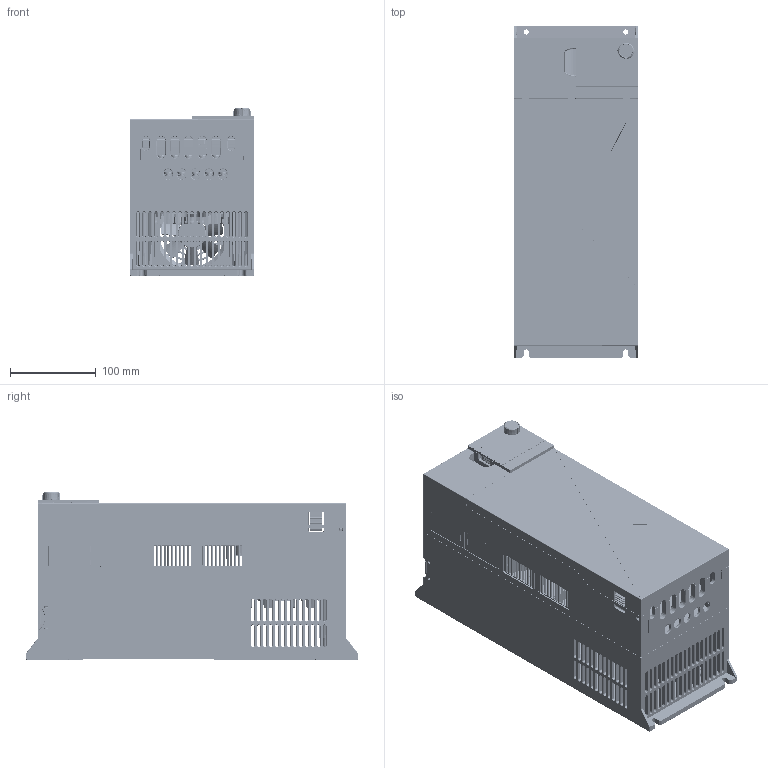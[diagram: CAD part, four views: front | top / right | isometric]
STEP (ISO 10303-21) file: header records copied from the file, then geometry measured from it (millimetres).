
FILE_DESCRIPTION((''),'2;1');
FILE_NAME('00-MC20-V4_ASM','2025-03-12T18:01:35',('A003968'),(''),'CREO PARAMETRIC BY PTC INC, 2020074','CREO PARAMETRIC BY PTC INC, 2020074','');
FILE_SCHEMA(('CONFIG_CONTROL_DESIGN','SHAPE_APPEARANCE_LAYERS_GROUPS'));
Products named in the file (26): A004-12-01; A004-12-01_ASM; A004-12-02; A004-12-04; A004-12-05; A004-12-06; A002-12-06; A004-10-01_ASM; PCB-POWER-0927; PCB-AC-0927; A004-PCB_ASM; FAN-8025; A004-QJ_ASM; A001-12-07; A001-12-08; A001-12-06; A001-18-01; A001-18-03; ST2R2X6R5F; A001-JP_ASM; A004-11-01; A004-11-01_ASM; A001-18-02; 000; A004-FL_ASM; 00-MC20-V4_ASM
Assembly tree (29 placements, depth 4):
  00-MC20-V4_ASM
    A004-10-01_ASM
      A004-12-01_ASM
        A004-12-01
      A004-12-02
      A004-12-04
      A004-12-05
      A004-12-06
      A002-12-06  x4
    A004-PCB_ASM
      PCB-POWER-0927
      PCB-AC-0927
    A004-QJ_ASM
      FAN-8025
    A001-JP_ASM
      A001-12-07
      A001-12-08
      A001-12-06
      A001-18-01
      A001-18-03
      ST2R2X6R5F  x2
    A004-11-01_ASM
      A004-11-01
    A004-FL_ASM
      A001-18-02
      000
Bounding box: 146 x 388 x 195.3 mm (x, y, z)
Volume: 1122742.1 mm3; surface area: 1063043 mm2
Topology: 20 solids, 23 shells, 13146 faces, 37173 edges, 24739 vertices
Faces by surface type: plane 9611, cylinder 1992, cone 921, extrusion 201, bspline 193, torus 189, sphere 39
Entity records: 550361 total; most frequent: CARTESIAN_POINT 89966, ORIENTED_EDGE 64236, DIRECTION 57419, PRESENTATION_STYLE_ASSIGNMENT 41022, STYLED_ITEM 41018, EDGE_CURVE 32168, CURVE_STYLE 31733, VECTOR 25131
